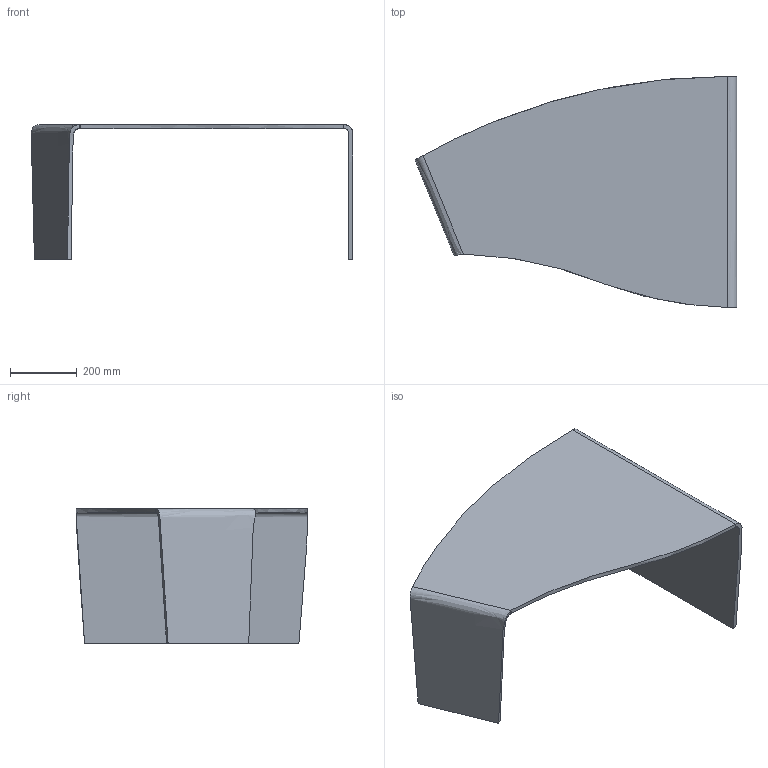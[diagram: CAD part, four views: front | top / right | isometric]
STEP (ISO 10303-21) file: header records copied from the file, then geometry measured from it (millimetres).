
FILE_DESCRIPTION(/* description */ (''),/* implementation_level */ '2;1');
FILE_NAME(/* name */ '0400 - Virgola 98x69 H40',/* time_stamp */ '2010-11-05T09:47:56+01:00',/* author */ (''),/* organization */ (''),/* preprocessor_version */ 'ST-DEVELOPER v10',/* originating_system */ '',/* authorisation */ '');
FILE_SCHEMA (('CONFIG_CONTROL_DESIGN'));
Length unit declared in the file: centimetre
Products named in the file (1): 1
Bounding box: 961.91 x 691.09 x 403.46 mm (x, y, z)
Volume: 11148719 mm3; surface area: 1755775 mm2
Topology: 1 solids, 1 shells, 11 faces, 19 edges, 10 vertices
Faces by surface type: bspline 9, plane 2
Entity records: 1721 total; most frequent: CARTESIAN_POINT 1505, ORIENTED_EDGE 38, EDGE_CURVE 19, B_SPLINE_CURVE_WITH_KNOTS 12, ADVANCED_FACE 11, FACE_OUTER_BOUND 11, EDGE_LOOP 11, VERTEX_POINT 10
